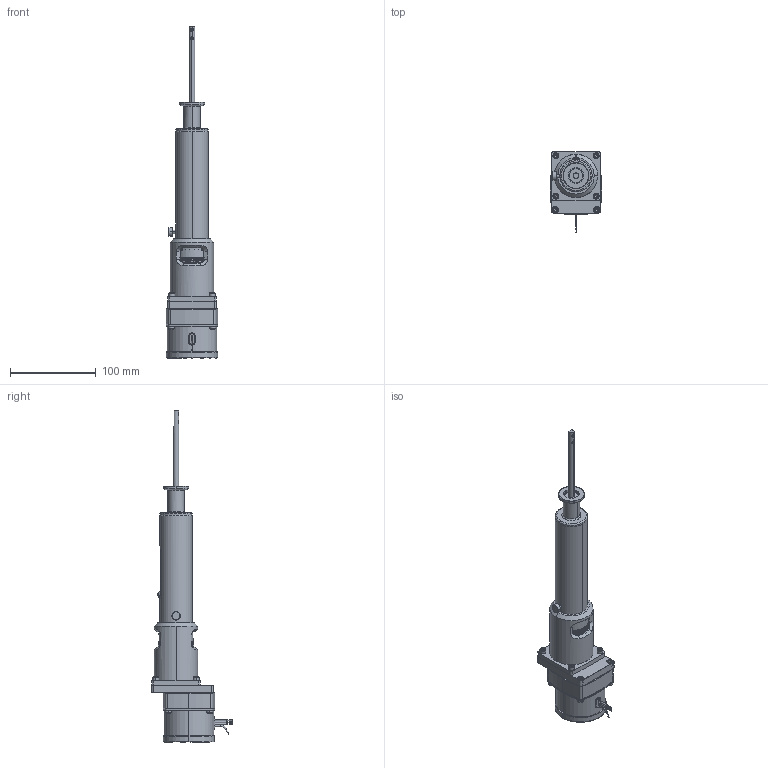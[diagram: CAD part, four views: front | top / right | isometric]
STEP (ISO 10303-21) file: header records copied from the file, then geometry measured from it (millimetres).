
FILE_DESCRIPTION (( 'STEP AP203' ), '1' );
FILE_NAME ('102260-21.stp', '2019-04-09T21:37:04', ( '' ), ( '' ), 'SwSTEP 2.0', 'SolidWorks 2012', '' );
FILE_SCHEMA (( 'CONFIG_CONTROL_DESIGN' ));
Products named in the file (1): 102260-21
Bounding box: 60.33 x 93.89 x 386.69 mm (x, y, z)
Volume: 500314.2 mm3; surface area: 59922.2 mm2
Topology: 1 solids, 10 shells, 1857 faces, 5168 edges, 3378 vertices
Faces by surface type: plane 1017, cylinder 511, bspline 178, cone 151
Entity records: 85210 total; most frequent: CARTESIAN_POINT 38782, ORIENTED_EDGE 10296, DIRECTION 8995, EDGE_CURVE 5148, VERTEX_POINT 3378, AXIS2_PLACEMENT_3D 3183, LINE 2629, VECTOR 2629
